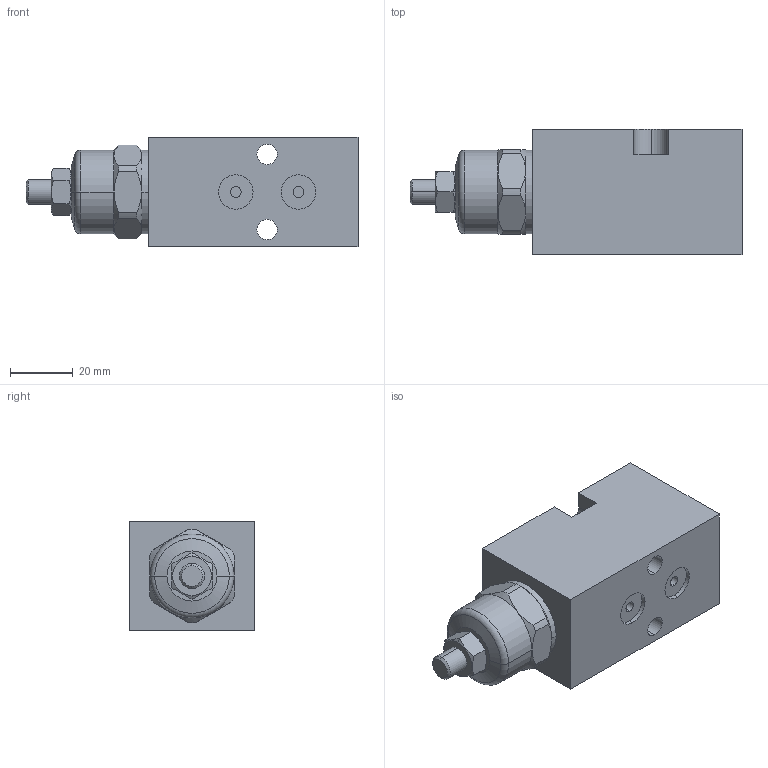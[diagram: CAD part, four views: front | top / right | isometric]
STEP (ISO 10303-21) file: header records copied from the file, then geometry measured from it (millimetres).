
FILE_DESCRIPTION(/* description */ (''),/* implementation_level */ '2;1');
FILE_NAME(/* name */ 'BGT2830-01G.stp',/* time_stamp */ '2024-11-12T13:24:03+08:00',/* author */ (''),/* organization */ (''),/* preprocessor_version */ 'ST-DEVELOPER v16.7',/* originating_system */ 'SIEMENS PLM Software NX 12.0',/* authorisation */ '');
FILE_SCHEMA (('AP203_CONFIGURATION_CONTROLLED_3D_DESIGN_OF_MECHANICAL_PARTS_AND_ASSEMBLIES_MIM_LF { 1 0 10303 403 2 1 2}'));
Length unit declared in the file: millimetre
Products named in the file (6): BGT-05; BGT-04; BGT-03; BGT-02; BGT-01; BGT2830-0G_stp
Assembly tree (5 placements, depth 2):
  BGT2830-0G_stp
    BGT-01
    BGT-02
    BGT-03
    BGT-04
    BGT-05
Bounding box: 106 x 40 x 35 mm (x, y, z)
Volume: 104538.2 mm3; surface area: 20705.4 mm2
Topology: 5 solids, 5 shells, 123 faces, 293 edges, 187 vertices
Faces by surface type: plane 56, cylinder 41, cone 22, sphere 2, torus 2
Entity records: 4342 total; most frequent: CARTESIAN_POINT 769, DIRECTION 629, ORIENTED_EDGE 586, EDGE_CURVE 293, AXIS2_PLACEMENT_3D 247, VERTEX_POINT 187, EDGE_LOOP 138, LINE 135
